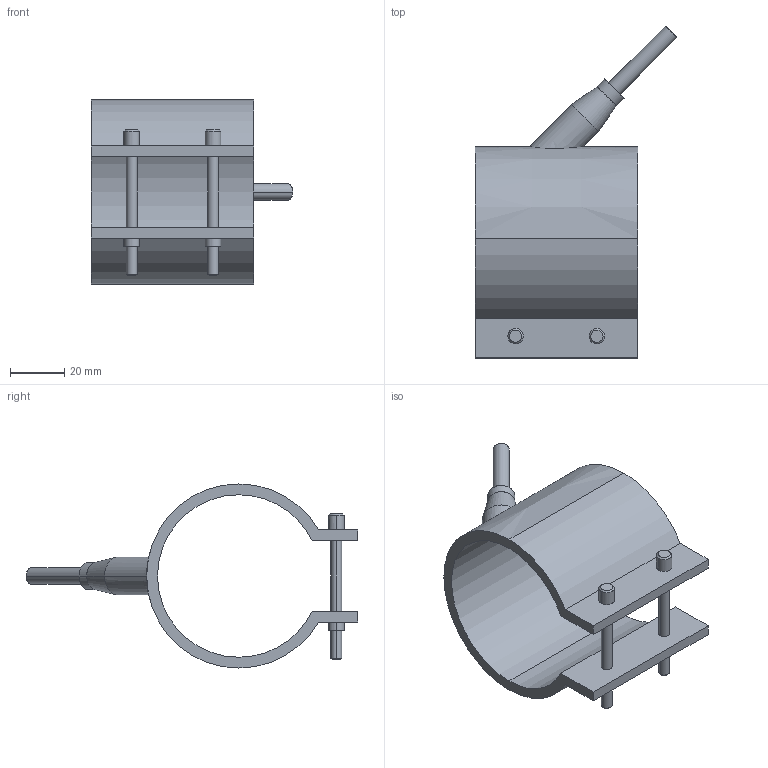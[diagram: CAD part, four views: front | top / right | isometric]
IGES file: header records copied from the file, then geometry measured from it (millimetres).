
Start section: START RECORD GO HERE.
Global section: file name: 29060060.igs; native system: DASSAULT SYSTEMES CATIA V5 R20 - www.3ds.com; preprocessor: CATIA Version 5 Release 20 ; author: Utente; organization: NB04-ASUS; date: 20210327.105212; units: millimetre
Bounding box: 74.55 x 122.55 x 68 mm (x, y, z)
Surface area: 29090.9 mm2 (no closed solid volume)
Topology: 0 solids, 0 shells, 54 faces, 252 edges, 252 vertices
Faces by surface type: revolution 38, plane 16
